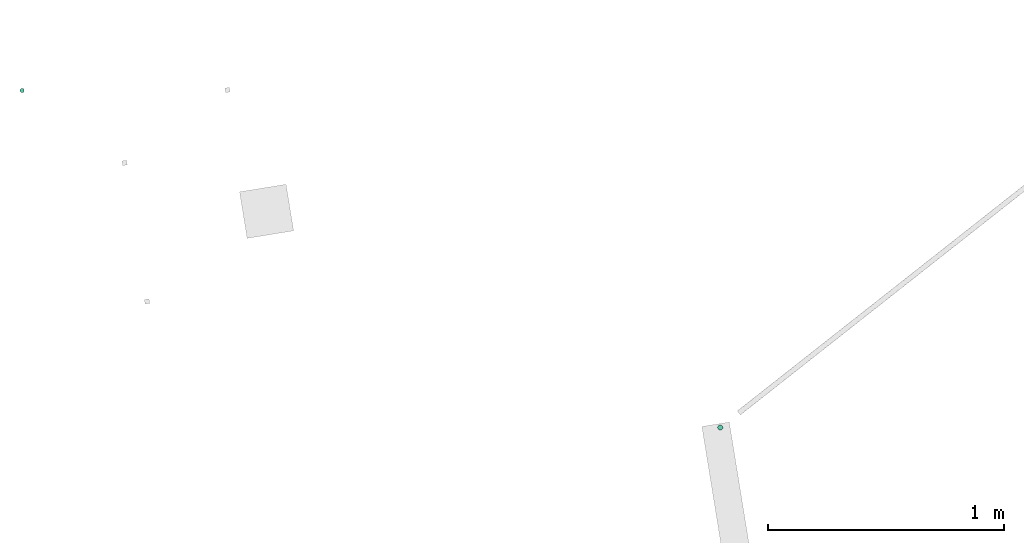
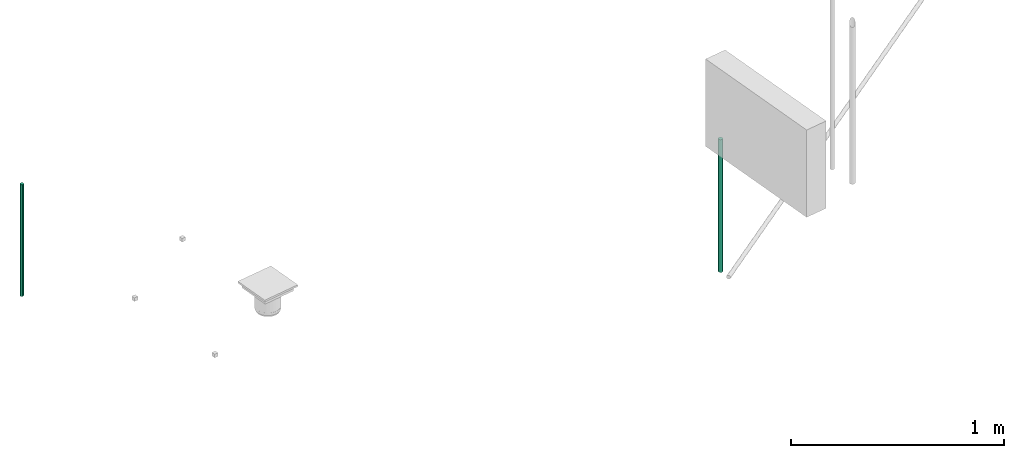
# One storey, part 5 of 11: 2 flow segments.
"""IFC2X3 building model written with IfcOpenShell, lengths in millimetres."""

from ifc_helpers import new_model, entity, si_unit, converted_unit, derived_unit, direction, frame, origin, origin_with_axes, origin_2d_with_axis, place, context, subcontext, project, spatial, circle, extrude, type_object, element, save


model = new_model("IFC2X3")

# Units and contexts
plan_context = context("Plan", 3, precision=1e-05, world=origin_with_axes())
model_context = context("Model", 3, precision=0.01, world=origin(), true_north=direction((6.12323399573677e-17, 1.0)))
body_context = subcontext(model_context, "Body", "Model", "MODEL_VIEW")
ifc_project = project(units=[converted_unit("PLANEANGLEUNIT", "DEGREE", entity("IfcPositiveLengthMeasure", 0.0174532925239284), si_unit("PLANEANGLEUNIT", "RADIAN"), dimensions=[0, 0, 0, 0, 0, 0, 0]), si_unit("AREAUNIT", "SQUARE_METRE"), si_unit("LENGTHUNIT", "METRE", prefix="MILLI"), si_unit("MASSUNIT", "GRAM", prefix="KILO"), si_unit("POWERUNIT", "WATT"), si_unit("PRESSUREUNIT", "PASCAL", prefix="KILO"), si_unit("FORCEUNIT", "NEWTON", prefix="KILO"), si_unit("ELECTRICVOLTAGEUNIT", "VOLT"), si_unit("ELECTRICCURRENTUNIT", "AMPERE"), si_unit("THERMODYNAMICTEMPERATUREUNIT", "DEGREE_CELSIUS"), si_unit("TIMEUNIT", "SECOND"), si_unit("VOLUMEUNIT", "CUBIC_METRE"), derived_unit("LINEARVELOCITYUNIT", [(si_unit("LENGTHUNIT", "METRE"), 1), (si_unit("TIMEUNIT", "SECOND"), -1)]), derived_unit("VOLUMETRICFLOWRATEUNIT", [(si_unit("VOLUMEUNIT", "CUBIC_METRE"), 1), (si_unit("TIMEUNIT", "SECOND"), -1)]), derived_unit("THERMALTRANSMITTANCEUNIT", [(si_unit("POWERUNIT", "WATT"), 1), (si_unit("THERMODYNAMICTEMPERATUREUNIT", "KELVIN"), -1), (si_unit("AREAUNIT", "SQUARE_METRE"), -1)]), derived_unit("SOUNDPRESSUREUNIT", [(si_unit("PRESSUREUNIT", "PASCAL"), 1)])], contexts=[model_context, plan_context])

# Site, building, storey
site_placement = place(None, frame((-0.000710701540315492, 0.00438415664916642, 0.0), z_axis=(0.0, 0.0, 1.0), x_axis=(-0.160236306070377, 0.987078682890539, 0.0)))
site = spatial("IfcSite", under=ifc_project, at=site_placement, Name="Default", CompositionType="ELEMENT")
building_placement = place(site_placement, origin_with_axes())
building = spatial("IfcBuilding", under=site, at=building_placement, CompositionType="ELEMENT")
storey_placement = place(building_placement, frame((0.0, 0.0, 58999.9999999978), z_axis=(0.0, 0.0, 1.0), x_axis=(1.0, 0.0, 0.0)))
storey = spatial("IfcBuildingStorey", under=building, at=storey_placement, Name="Nivå F", CompositionType="ELEMENT", Elevation=58999.9999999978)

# Flow segments
pipe_segment_type = type_object("IfcPipeSegmentType", Name="Pipe Types:PEX rør", PredefinedType="NOTDEFINED")
flow_segment_1_placement = place(storey_placement, origin_with_axes())
element("IfcFlowSegment", 1, at=flow_segment_1_placement, inside=storey, type_object=pipe_segment_type, Name="Pipe Types:PEX rør", ObjectType="Pipe Types:PEX rør", context=body_context, shape_type="SweptSolid", body=[
    extrude(circle(Radius=11.0, at=origin_2d_with_axis()), frame((779970.39133353, -503615.331632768, -39.29468798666), z_axis=(0.0, 0.0, 1.0), x_axis=(-1.0, 0.0, 0.0)), (0.0, 0.0, 1.0), 760.0),
])
flow_segment_2_placement = place(storey_placement, origin_with_axes())
element("IfcFlowSegment", 2, at=flow_segment_2_placement, inside=storey, type_object=pipe_segment_type, Name="Pipe Types:PEX rør", ObjectType="Pipe Types:PEX rør", context=body_context, shape_type="SweptSolid", body=[
    extrude(circle(Radius=9.0, at=origin_2d_with_axis()), frame((781855.240019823, -500922.921310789, -8.89529472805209), z_axis=(0.0, 0.0, 1.0), x_axis=(-1.0, 0.0, 0.0)), (0.0, 0.0, 1.0), 639.999999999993),
])

save(model, "model.ifc")
